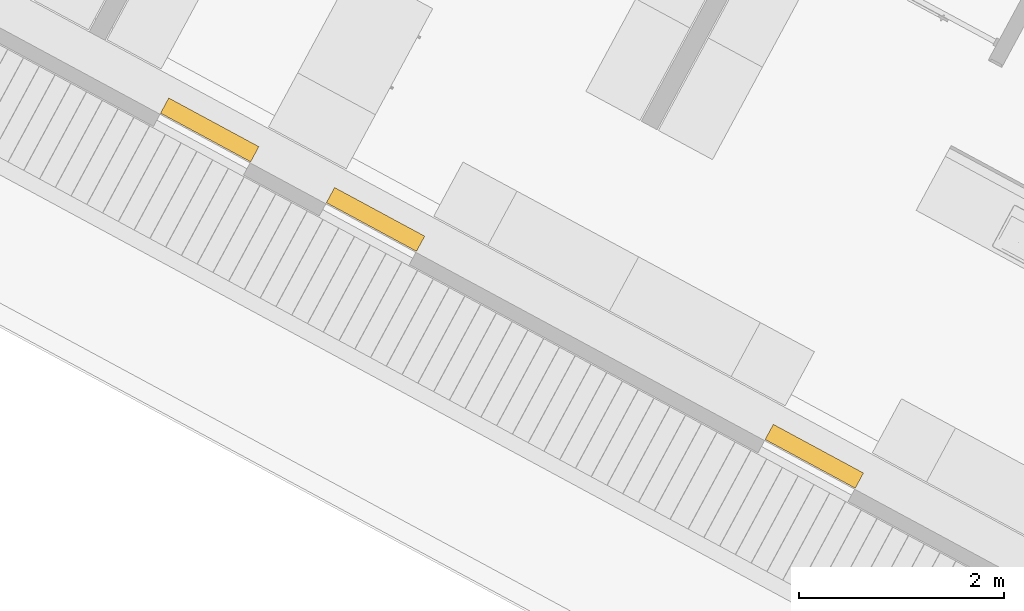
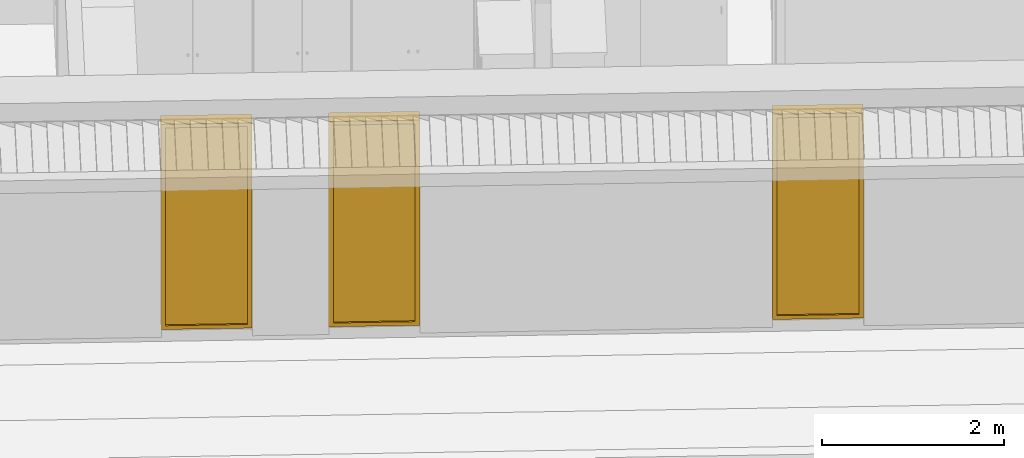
# One storey, part 11 of 41: 3 curtain walls.
"""IFC2X3 building model written with IfcOpenShell, lengths in metres."""

from ifc_helpers import new_model, entity, si_unit, converted_unit, derived_unit, money_unit, direction, frame, origin_with_axes, place, context, subcontext, project, spatial, faceted_brep, material, material_list, type_object, element, save


model = new_model("IFC2X3")

# Units and contexts
model_context = context("Model", 3, precision=1e-05, world=origin_with_axes(), true_north=direction((0.0, 1.0)))
body_context = subcontext(model_context, "Body", "Model", "MODEL_VIEW")
ifc_project = project(units=[si_unit("LENGTHUNIT", "METRE"), si_unit("AREAUNIT", "SQUARE_METRE"), si_unit("VOLUMEUNIT", "CUBIC_METRE"), converted_unit("PLANEANGLEUNIT", "DEGREE", entity("IfcPlaneAngleMeasure", 0.0174532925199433), si_unit("PLANEANGLEUNIT", "RADIAN"), dimensions=[0, 0, 0, 0, 0, 0, 0]), money_unit("EUR"), converted_unit("TIMEUNIT", "Year", entity("IfcTimeMeasure", 31556926.0), si_unit("TIMEUNIT", "SECOND"), dimensions=[0, 0, 1, 0, 0, 0, 0]), si_unit("MASSUNIT", "GRAM", prefix="KILO"), si_unit("THERMODYNAMICTEMPERATUREUNIT", "DEGREE_CELSIUS"), si_unit("LUMINOUSINTENSITYUNIT", "LUMEN"), si_unit("ENERGYUNIT", "JOULE", prefix="MEGA"), derived_unit("THERMALCONDUCTANCEUNIT", [(si_unit("POWERUNIT", "WATT"), 1), (si_unit("LENGTHUNIT", "METRE"), -1), (si_unit("THERMODYNAMICTEMPERATUREUNIT", "KELVIN"), -1)]), derived_unit("SPECIFICHEATCAPACITYUNIT", [(si_unit("ENERGYUNIT", "JOULE"), 1), (si_unit("MASSUNIT", "GRAM", prefix="KILO"), -1), (si_unit("THERMODYNAMICTEMPERATUREUNIT", "KELVIN"), -1)]), derived_unit("MASSDENSITYUNIT", [(si_unit("MASSUNIT", "GRAM", prefix="KILO"), 1), (si_unit("VOLUMEUNIT", "CUBIC_METRE"), -1)])], contexts=[model_context])

# Site, building, storey
site_placement = place(None, frame((-3.949935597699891, 1.740105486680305, 0.0), z_axis=(0.0, 0.0, 1.0), x_axis=(0.8799804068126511, -0.475009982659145, 0.0)))
site = spatial("IfcSite", under=ifc_project, at=site_placement, Name="Gelände", CompositionType="ELEMENT")
building_placement = place(site_placement, origin_with_axes())
building = spatial("IfcBuilding", under=site, at=building_placement, Name="Gebäude", CompositionType="ELEMENT")
storey_placement = place(building_placement, frame((0.0, 0.0, 4.55), z_axis=(0.0, 0.0, 1.0), x_axis=(1.0, 0.0, 0.0)))
storey = spatial("IfcBuildingStorey", under=building, at=storey_placement, Name="Staffelgeschoss", CompositionType="ELEMENT", Elevation=4.55)

# Curtain walls
ifc_material_1 = material(Name="Glas, Normalglas-50% durchlässig")
ifc_material_2 = material(Name="Metall, Stahl lackiert")
ifc_material_list = material_list([ifc_material_1, ifc_material_2, ifc_material_2, ifc_material_2, ifc_material_2, ifc_material_2, ifc_material_2])
curtain_wall_type = type_object("IfcCurtainWallType", Name="Fassadentyp", PredefinedType="NOTDEFINED")
curtain_wall_1_placement = place(storey_placement, frame((19.47427115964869, 1.291987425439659, -5.75946277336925e-07), z_axis=(0.0, 0.0, 1.0), x_axis=(1.0, 0.0, 0.0)))
element("IfcCurtainWall", 1, at=curtain_wall_1_placement, inside=storey, type_object=curtain_wall_type, material=ifc_material_list, Name="Fassade-006", context=body_context, shape_type="Brep", body=[
    faceted_brep([(0.6305897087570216, 0.01500000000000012, 2.720000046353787), (-0.3094103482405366, 0.01500000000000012, 2.720000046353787), (-0.3094103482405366, -0.0149999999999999, 2.720000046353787), (0.6305897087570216, -0.0149999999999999, 2.720000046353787), (0.6305897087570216, 0.0149999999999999, 0.03000000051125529), (-0.3094103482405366, 0.0149999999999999, 0.03000004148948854), (-0.3094103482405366, -0.0149999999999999, 0.03000004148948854), (0.6305897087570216, -0.0149999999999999, 0.03000000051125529)], [[[0, 1, 2, 3]], [[0, 4, 5, 1]], [[1, 5, 6, 2]], [[3, 2, 6, 7]], [[4, 0, 3, 7]], [[5, 4, 7, 6]]]),
    faceted_brep([(-0.339410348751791, -0.03499999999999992, 0.0), (-0.3211792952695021, -0.03499999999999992, 0.0), (-0.3211792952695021, -0.03499999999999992, 0.01823101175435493), (-0.339410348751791, 0.133, 0.0), (-0.3211792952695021, 0.133, 0.0), (-0.3211792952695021, 0.133, 0.01823101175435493)], [[[0, 1, 2]], [[3, 4, 1, 0]], [[2, 1, 4, 5]], [[2, 5, 3, 0]], [[5, 4, 3]]]),
    faceted_brep([(0.6305897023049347, 0.0149999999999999, 2.720000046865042), (0.6105897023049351, 0.0149999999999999, 2.700000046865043), (0.6105897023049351, 0.133, 2.700000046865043), (0.6605897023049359, 0.133, 2.750000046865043), (0.6605897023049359, -0.03500000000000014, 2.750000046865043), (0.6105897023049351, -0.03500000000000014, 2.700000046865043), (0.6105897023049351, -0.01500000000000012, 2.700000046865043), (0.6305897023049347, -0.01500000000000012, 2.720000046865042), (-0.3211793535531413, 0.0149999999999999, 2.720000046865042), (-0.3211793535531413, 0.0149999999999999, 2.700000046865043), (-0.3211793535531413, 0.133, 2.700000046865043), (-0.3211793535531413, 0.133, 2.750000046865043), (-0.3211793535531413, -0.03499999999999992, 2.750000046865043), (-0.3211793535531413, -0.03499999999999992, 2.700000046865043), (-0.3211793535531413, -0.0149999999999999, 2.700000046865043), (-0.3211793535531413, -0.0149999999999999, 2.720000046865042)], [[[0, 1, 2, 3, 4, 5, 6, 7]], [[0, 8, 9, 1]], [[9, 10, 2, 1]], [[10, 11, 3, 2]], [[11, 12, 4, 3]], [[12, 13, 5, 4]], [[6, 5, 13, 14]], [[14, 15, 7, 6]], [[7, 15, 8, 0]], [[8, 15, 14, 13, 12, 11, 10, 9]]]),
    faceted_brep([(-0.339410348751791, -0.03499999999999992, 2.750000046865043), (-0.3211793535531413, -0.03499999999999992, 2.731769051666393), (-0.3211793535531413, -0.03499999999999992, 2.750000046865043), (-0.339410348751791, 0.133, 2.750000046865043), (-0.3211793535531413, 0.133, 2.731769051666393), (-0.3211793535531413, 0.133, 2.750000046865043)], [[[0, 1, 2]], [[1, 0, 3, 4]], [[1, 4, 5, 2]], [[3, 0, 2, 5]], [[4, 3, 5]]]),
    faceted_brep([(0.6305897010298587, 0.0149999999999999, 0.03000004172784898), (0.6305897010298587, -0.01500000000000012, 0.03000004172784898), (0.6105897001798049, -0.01500000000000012, 0.05000004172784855), (0.6105897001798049, -0.03500000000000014, 0.05000004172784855), (0.6605897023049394, -0.03500000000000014, 4.172784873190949e-08), (0.6605897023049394, 0.133, 4.172784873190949e-08), (0.6105897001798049, 0.133, 0.05000004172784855), (0.6105897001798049, 0.0149999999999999, 0.05000004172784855), (-0.3211794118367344, 0.0149999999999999, 0.03000004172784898), (-0.3211794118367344, -0.0149999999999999, 0.03000004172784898), (-0.3211794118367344, -0.0149999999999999, 0.05000004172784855), (-0.3211794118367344, -0.03499999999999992, 0.05000004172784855), (-0.3211794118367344, -0.03499999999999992, 4.172784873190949e-08), (-0.3211794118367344, 0.133, 4.172784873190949e-08), (-0.3211794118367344, 0.133, 0.05000004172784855), (-0.3211794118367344, 0.01500000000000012, 0.05000004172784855)], [[[0, 1, 2, 3, 4, 5, 6, 7]], [[1, 0, 8, 9]], [[10, 2, 1, 9]], [[2, 10, 11, 3]], [[12, 4, 3, 11]], [[13, 5, 4, 12]], [[14, 6, 5, 13]], [[15, 7, 6, 14]], [[0, 7, 15, 8]], [[8, 15, 14, 13, 12, 11, 10, 9]]]),
    faceted_brep([(-0.3094103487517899, 0.0149999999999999, 0.03000004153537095), (-0.3094103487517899, -0.0149999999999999, 0.03000004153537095), (-0.2894103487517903, -0.0149999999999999, 0.05000004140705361), (-0.2894103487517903, -0.03499999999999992, 0.05000004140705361), (-0.339410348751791, -0.03499999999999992, 4.172784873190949e-08), (-0.339410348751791, 0.133, 4.172784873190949e-08), (-0.2894103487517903, 0.133, 0.05000004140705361), (-0.2894103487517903, 0.0149999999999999, 0.05000004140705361), (-0.3094103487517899, 0.0149999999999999, 2.720000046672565), (-0.3094103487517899, -0.0149999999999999, 2.720000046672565), (-0.2894103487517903, -0.0149999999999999, 2.700000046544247), (-0.2894103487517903, -0.03499999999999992, 2.700000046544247), (-0.339410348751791, -0.03499999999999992, 2.750000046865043), (-0.339410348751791, 0.133, 2.750000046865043), (-0.2894103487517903, 0.133, 2.700000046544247), (-0.2894103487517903, 0.01500000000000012, 2.700000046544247)], [[[0, 1, 2, 3, 4, 5, 6, 7]], [[1, 0, 8, 9]], [[10, 2, 1, 9]], [[2, 10, 11, 3]], [[4, 3, 11, 12]], [[5, 4, 12, 13]], [[6, 5, 13, 14]], [[15, 7, 6, 14]], [[0, 7, 15, 8]], [[8, 15, 14, 13, 12, 11, 10, 9]]]),
    faceted_brep([(0.6305897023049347, 0.0149999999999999, 2.720000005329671), (0.6305897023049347, -0.0149999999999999, 2.720000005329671), (0.6105897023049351, -0.0149999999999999, 2.70000000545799), (0.6105897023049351, -0.03499999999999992, 2.70000000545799), (0.6605897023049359, -0.03499999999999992, 2.750000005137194), (0.6605897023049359, 0.133, 2.750000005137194), (0.6105897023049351, 0.133, 2.70000000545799), (0.6105897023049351, 0.0149999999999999, 2.70000000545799), (0.6305897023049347, 0.0149999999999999, 0.03000000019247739), (0.6305897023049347, -0.0149999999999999, 0.03000000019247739), (0.6105897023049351, -0.0149999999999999, 0.05000000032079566), (0.6105897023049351, -0.03499999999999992, 0.05000000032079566), (0.6605897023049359, -0.03499999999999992, 0.0), (0.6605897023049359, 0.133, 0.0), (0.6105897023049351, 0.133, 0.05000000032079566), (0.6105897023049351, 0.0149999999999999, 0.05000000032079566)], [[[0, 1, 2, 3, 4, 5, 6, 7]], [[1, 0, 8, 9]], [[10, 2, 1, 9]], [[2, 10, 11, 3]], [[4, 3, 11, 12]], [[5, 4, 12, 13]], [[6, 5, 13, 14]], [[15, 7, 6, 14]], [[0, 7, 15, 8]], [[8, 15, 14, 13, 12, 11, 10, 9]]]),
])
curtain_wall_2_placement = place(storey_placement, frame((12.7656115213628, 1.291987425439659, -5.342184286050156e-07), z_axis=(0.0, 0.0, 1.0), x_axis=(1.0, 0.0, 0.0)))
element("IfcCurtainWall", 2, at=curtain_wall_2_placement, inside=storey, type_object=curtain_wall_type, material=ifc_material_list, Name="Fassade-006", context=body_context, shape_type="Brep", body=[
    faceted_brep([(0.6285923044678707, 0.01500000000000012, 2.720000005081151), (-0.3114077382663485, 0.01500000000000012, 2.720000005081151), (-0.3114077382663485, -0.0149999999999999, 2.720000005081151), (0.6285923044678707, -0.0149999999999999, 2.720000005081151), (0.6285923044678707, 0.0149999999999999, 0.03000000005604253), (-0.3114077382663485, 0.0149999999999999, 0.03000000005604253), (-0.3114077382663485, -0.0149999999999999, 0.03000000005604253), (0.6285923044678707, -0.0149999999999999, 0.03000000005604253)], [[[0, 1, 2, 3]], [[0, 4, 5, 1]], [[1, 5, 6, 2]], [[3, 2, 6, 7]], [[4, 0, 3, 7]], [[5, 4, 7, 6]]]),
    faceted_brep([(-0.3414077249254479, -0.03499999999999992, 0.0), (-0.3171845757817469, -0.03499999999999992, 0.0), (-0.3171845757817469, -0.03499999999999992, 0.0242231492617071), (-0.3414077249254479, 0.133, 0.0), (-0.3171845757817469, 0.133, 0.0), (-0.3171845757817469, 0.133, 0.0242231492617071)], [[[0, 1, 2]], [[3, 4, 1, 0]], [[2, 1, 4, 5]], [[2, 5, 3, 0]], [[5, 4, 3]]]),
    faceted_brep([(0.6285922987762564, 0.0149999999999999, 2.720000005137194), (0.6085922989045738, 0.0149999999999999, 2.700000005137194), (0.6085922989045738, 0.133, 2.700000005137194), (0.6585922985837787, 0.133, 2.750000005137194), (0.6585922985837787, -0.03500000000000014, 2.750000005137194), (0.6085922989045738, -0.03500000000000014, 2.700000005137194), (0.6085922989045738, -0.01500000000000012, 2.700000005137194), (0.6285922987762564, -0.01500000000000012, 2.720000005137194), (-0.3171845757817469, 0.0149999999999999, 2.720000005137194), (-0.3171845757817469, 0.0149999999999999, 2.700000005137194), (-0.3171845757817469, 0.133, 2.700000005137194), (-0.3171845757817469, 0.133, 2.750000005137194), (-0.3171845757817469, -0.03499999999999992, 2.750000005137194), (-0.3171845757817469, -0.03499999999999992, 2.700000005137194), (-0.3171845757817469, -0.0149999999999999, 2.700000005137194), (-0.3171845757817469, -0.0149999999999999, 2.720000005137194)], [[[0, 1, 2, 3, 4, 5, 6, 7]], [[0, 8, 9, 1]], [[9, 10, 2, 1]], [[10, 11, 3, 2]], [[11, 12, 4, 3]], [[12, 13, 5, 4]], [[6, 5, 13, 14]], [[14, 15, 7, 6]], [[7, 15, 8, 0]], [[8, 15, 14, 13, 12, 11, 10, 9]]]),
    faceted_brep([(-0.3414077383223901, -0.03499999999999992, 2.750000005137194), (-0.3171845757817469, -0.03499999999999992, 2.725776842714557), (-0.3171845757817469, -0.03499999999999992, 2.750000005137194), (-0.3414077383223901, 0.133, 2.750000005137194), (-0.3171845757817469, 0.133, 2.725776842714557), (-0.3171845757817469, 0.133, 2.750000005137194)], [[[0, 1, 2]], [[1, 0, 3, 4]], [[1, 4, 5, 2]], [[3, 0, 2, 5]], [[4, 3, 5]]]),
    faceted_brep([(0.6285923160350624, 0.0149999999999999, 0.03000000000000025), (0.6285923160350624, -0.01500000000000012, 0.03000000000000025), (0.6085923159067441, -0.01500000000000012, 0.04999999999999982), (0.6085923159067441, -0.03500000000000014, 0.04999999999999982), (0.6585923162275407, -0.03500000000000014, 0.0), (0.6585923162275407, 0.133, 0.0), (0.6085923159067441, 0.133, 0.04999999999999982), (0.6085923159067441, 0.0149999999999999, 0.04999999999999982), (-0.3171845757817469, 0.0149999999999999, 0.03000000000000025), (-0.3171845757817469, -0.0149999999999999, 0.03000000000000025), (-0.3171845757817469, -0.0149999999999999, 0.04999999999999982), (-0.3171845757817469, -0.03499999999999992, 0.04999999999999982), (-0.3171845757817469, -0.03499999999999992, 0.0), (-0.3171845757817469, 0.133, 0.0), (-0.3171845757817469, 0.133, 0.04999999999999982), (-0.3171845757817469, 0.01500000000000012, 0.04999999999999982)], [[[0, 1, 2, 3, 4, 5, 6, 7]], [[1, 0, 8, 9]], [[10, 2, 1, 9]], [[2, 10, 11, 3]], [[12, 4, 3, 11]], [[13, 5, 4, 12]], [[14, 6, 5, 13]], [[15, 7, 6, 14]], [[0, 7, 15, 8]], [[8, 15, 14, 13, 12, 11, 10, 9]]]),
    faceted_brep([(-0.3114077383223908, 0.0149999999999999, 0.02999999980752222), (-0.3114077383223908, -0.0149999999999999, 0.02999999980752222), (-0.2914077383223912, -0.0149999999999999, 0.04999999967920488), (-0.2914077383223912, -0.03499999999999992, 0.04999999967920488), (-0.3414077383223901, -0.03499999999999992, 0.0), (-0.3414077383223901, 0.133, 0.0), (-0.2914077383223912, 0.133, 0.04999999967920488), (-0.2914077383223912, 0.0149999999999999, 0.04999999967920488), (-0.3114077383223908, 0.0149999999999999, 2.720000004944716), (-0.3114077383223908, -0.0149999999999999, 2.720000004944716), (-0.2914077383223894, -0.0149999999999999, 2.700000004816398), (-0.2914077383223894, -0.03499999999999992, 2.700000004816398), (-0.3414077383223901, -0.03499999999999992, 2.750000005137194), (-0.3414077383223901, 0.133, 2.750000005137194), (-0.2914077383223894, 0.133, 2.700000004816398), (-0.2914077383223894, 0.01500000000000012, 2.700000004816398)], [[[0, 1, 2, 3, 4, 5, 6, 7]], [[1, 0, 8, 9]], [[10, 2, 1, 9]], [[2, 10, 11, 3]], [[4, 3, 11, 12]], [[5, 4, 12, 13]], [[6, 5, 13, 14]], [[15, 7, 6, 14]], [[0, 7, 15, 8]], [[8, 15, 14, 13, 12, 11, 10, 9]]]),
    faceted_brep([(0.6285923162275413, 0.0149999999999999, 2.720000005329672), (0.6285923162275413, -0.0149999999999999, 2.720000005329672), (0.60859231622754, -0.0149999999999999, 2.700000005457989), (0.60859231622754, -0.03499999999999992, 2.700000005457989), (0.6585923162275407, -0.03499999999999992, 2.750000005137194), (0.6585923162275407, 0.133, 2.750000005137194), (0.60859231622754, 0.133, 2.700000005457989), (0.60859231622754, 0.0149999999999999, 2.700000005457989), (0.6285923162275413, 0.0149999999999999, 0.03000000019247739), (0.6285923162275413, -0.0149999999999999, 0.03000000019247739), (0.60859231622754, -0.0149999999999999, 0.05000000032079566), (0.60859231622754, -0.03499999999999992, 0.05000000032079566), (0.6585923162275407, -0.03499999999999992, 0.0), (0.6585923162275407, 0.133, 0.0), (0.60859231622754, 0.133, 0.05000000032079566), (0.60859231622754, 0.0149999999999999, 0.05000000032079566)], [[[0, 1, 2, 3, 4, 5, 6, 7]], [[1, 0, 8, 9]], [[10, 2, 1, 9]], [[2, 10, 11, 3]], [[4, 3, 11, 12]], [[5, 4, 12, 13]], [[6, 5, 13, 14]], [[15, 7, 6, 14]], [[0, 7, 15, 8]], [[8, 15, 14, 13, 12, 11, 10, 9]]]),
])
curtain_wall_3_placement = place(storey_placement, frame((14.60639966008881, 1.291987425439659, -5.342184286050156e-07), z_axis=(0.0, 0.0, 1.0), x_axis=(1.0, 0.0, 0.0)))
element("IfcCurtainWall", 3, at=curtain_wall_3_placement, inside=storey, type_object=curtain_wall_type, material=ifc_material_list, Name="Fassade-006", context=body_context, shape_type="Brep", body=[
    faceted_brep([(0.6285923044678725, 0.01500000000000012, 2.720000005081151), (-0.3114077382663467, 0.01500000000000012, 2.720000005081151), (-0.3114077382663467, -0.0149999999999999, 2.720000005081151), (0.6285923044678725, -0.0149999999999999, 2.720000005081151), (0.6285923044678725, 0.0149999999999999, 0.03000000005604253), (-0.3114077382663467, 0.0149999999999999, 0.03000000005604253), (-0.3114077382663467, -0.0149999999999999, 0.03000000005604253), (0.6285923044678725, -0.0149999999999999, 0.03000000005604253)], [[[0, 1, 2, 3]], [[0, 4, 5, 1]], [[1, 5, 6, 2]], [[3, 2, 6, 7]], [[4, 0, 3, 7]], [[5, 4, 7, 6]]]),
    faceted_brep([(-0.3414077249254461, -0.03499999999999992, 0.0), (-0.3171845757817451, -0.03499999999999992, 0.0), (-0.3171845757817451, -0.03499999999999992, 0.0242231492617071), (-0.3414077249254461, 0.133, 0.0), (-0.3171845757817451, 0.133, 0.0), (-0.3171845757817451, 0.133, 0.0242231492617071)], [[[0, 1, 2]], [[3, 4, 1, 0]], [[2, 1, 4, 5]], [[2, 5, 3, 0]], [[5, 4, 3]]]),
    faceted_brep([(0.6285922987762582, 0.0149999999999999, 2.720000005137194), (0.6085922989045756, 0.0149999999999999, 2.700000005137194), (0.6085922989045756, 0.133, 2.700000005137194), (0.6585922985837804, 0.133, 2.750000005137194), (0.6585922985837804, -0.03500000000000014, 2.750000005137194), (0.6085922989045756, -0.03500000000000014, 2.700000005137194), (0.6085922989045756, -0.01500000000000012, 2.700000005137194), (0.6285922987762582, -0.01500000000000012, 2.720000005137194), (-0.3171845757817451, 0.0149999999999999, 2.720000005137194), (-0.3171845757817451, 0.0149999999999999, 2.700000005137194), (-0.3171845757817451, 0.133, 2.700000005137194), (-0.3171845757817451, 0.133, 2.750000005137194), (-0.3171845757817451, -0.03499999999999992, 2.750000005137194), (-0.3171845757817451, -0.03499999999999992, 2.700000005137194), (-0.3171845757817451, -0.0149999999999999, 2.700000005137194), (-0.3171845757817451, -0.0149999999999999, 2.720000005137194)], [[[0, 1, 2, 3, 4, 5, 6, 7]], [[0, 8, 9, 1]], [[9, 10, 2, 1]], [[10, 11, 3, 2]], [[11, 12, 4, 3]], [[12, 13, 5, 4]], [[6, 5, 13, 14]], [[14, 15, 7, 6]], [[7, 15, 8, 0]], [[8, 15, 14, 13, 12, 11, 10, 9]]]),
    faceted_brep([(-0.3414077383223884, -0.03499999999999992, 2.750000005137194), (-0.3171845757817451, -0.03499999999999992, 2.725776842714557), (-0.3171845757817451, -0.03499999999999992, 2.750000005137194), (-0.3414077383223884, 0.133, 2.750000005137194), (-0.3171845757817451, 0.133, 2.725776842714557), (-0.3171845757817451, 0.133, 2.750000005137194)], [[[0, 1, 2]], [[1, 0, 3, 4]], [[1, 4, 5, 2]], [[3, 0, 2, 5]], [[4, 3, 5]]]),
    faceted_brep([(0.6285923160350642, 0.0149999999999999, 0.03000000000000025), (0.6285923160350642, -0.01500000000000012, 0.03000000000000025), (0.6085923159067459, -0.01500000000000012, 0.04999999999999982), (0.6085923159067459, -0.03500000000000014, 0.04999999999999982), (0.6585923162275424, -0.03500000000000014, 0.0), (0.6585923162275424, 0.133, 0.0), (0.6085923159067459, 0.133, 0.04999999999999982), (0.6085923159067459, 0.0149999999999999, 0.04999999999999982), (-0.3171845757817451, 0.0149999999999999, 0.03000000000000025), (-0.3171845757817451, -0.0149999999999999, 0.03000000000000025), (-0.3171845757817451, -0.0149999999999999, 0.04999999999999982), (-0.3171845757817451, -0.03499999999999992, 0.04999999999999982), (-0.3171845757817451, -0.03499999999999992, 0.0), (-0.3171845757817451, 0.133, 0.0), (-0.3171845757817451, 0.133, 0.04999999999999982), (-0.3171845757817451, 0.01500000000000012, 0.04999999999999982)], [[[0, 1, 2, 3, 4, 5, 6, 7]], [[1, 0, 8, 9]], [[10, 2, 1, 9]], [[2, 10, 11, 3]], [[12, 4, 3, 11]], [[13, 5, 4, 12]], [[14, 6, 5, 13]], [[15, 7, 6, 14]], [[0, 7, 15, 8]], [[8, 15, 14, 13, 12, 11, 10, 9]]]),
    faceted_brep([(-0.311407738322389, 0.0149999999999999, 0.02999999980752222), (-0.311407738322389, -0.0149999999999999, 0.02999999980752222), (-0.2914077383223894, -0.0149999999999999, 0.04999999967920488), (-0.2914077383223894, -0.03499999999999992, 0.04999999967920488), (-0.3414077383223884, -0.03499999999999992, 0.0), (-0.3414077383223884, 0.133, 0.0), (-0.2914077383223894, 0.133, 0.04999999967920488), (-0.2914077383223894, 0.0149999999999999, 0.04999999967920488), (-0.311407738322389, 0.0149999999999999, 2.720000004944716), (-0.311407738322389, -0.0149999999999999, 2.720000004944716), (-0.2914077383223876, -0.0149999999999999, 2.700000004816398), (-0.2914077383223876, -0.03499999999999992, 2.700000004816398), (-0.3414077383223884, -0.03499999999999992, 2.750000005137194), (-0.3414077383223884, 0.133, 2.750000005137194), (-0.2914077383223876, 0.133, 2.700000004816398), (-0.2914077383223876, 0.01500000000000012, 2.700000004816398)], [[[0, 1, 2, 3, 4, 5, 6, 7]], [[1, 0, 8, 9]], [[10, 2, 1, 9]], [[2, 10, 11, 3]], [[4, 3, 11, 12]], [[5, 4, 12, 13]], [[6, 5, 13, 14]], [[15, 7, 6, 14]], [[0, 7, 15, 8]], [[8, 15, 14, 13, 12, 11, 10, 9]]]),
    faceted_brep([(0.6285923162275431, 0.0149999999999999, 2.720000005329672), (0.6285923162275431, -0.0149999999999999, 2.720000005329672), (0.6085923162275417, -0.0149999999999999, 2.700000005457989), (0.6085923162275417, -0.03499999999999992, 2.700000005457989), (0.6585923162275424, -0.03499999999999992, 2.750000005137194), (0.6585923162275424, 0.133, 2.750000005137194), (0.6085923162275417, 0.133, 2.700000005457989), (0.6085923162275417, 0.0149999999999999, 2.700000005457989), (0.6285923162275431, 0.0149999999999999, 0.03000000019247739), (0.6285923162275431, -0.0149999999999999, 0.03000000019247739), (0.6085923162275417, -0.0149999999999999, 0.05000000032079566), (0.6085923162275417, -0.03499999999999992, 0.05000000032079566), (0.6585923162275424, -0.03499999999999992, 0.0), (0.6585923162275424, 0.133, 0.0), (0.6085923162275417, 0.133, 0.05000000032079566), (0.6085923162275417, 0.0149999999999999, 0.05000000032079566)], [[[0, 1, 2, 3, 4, 5, 6, 7]], [[1, 0, 8, 9]], [[10, 2, 1, 9]], [[2, 10, 11, 3]], [[4, 3, 11, 12]], [[5, 4, 12, 13]], [[6, 5, 13, 14]], [[15, 7, 6, 14]], [[0, 7, 15, 8]], [[8, 15, 14, 13, 12, 11, 10, 9]]]),
])

save(model, "model.ifc")
